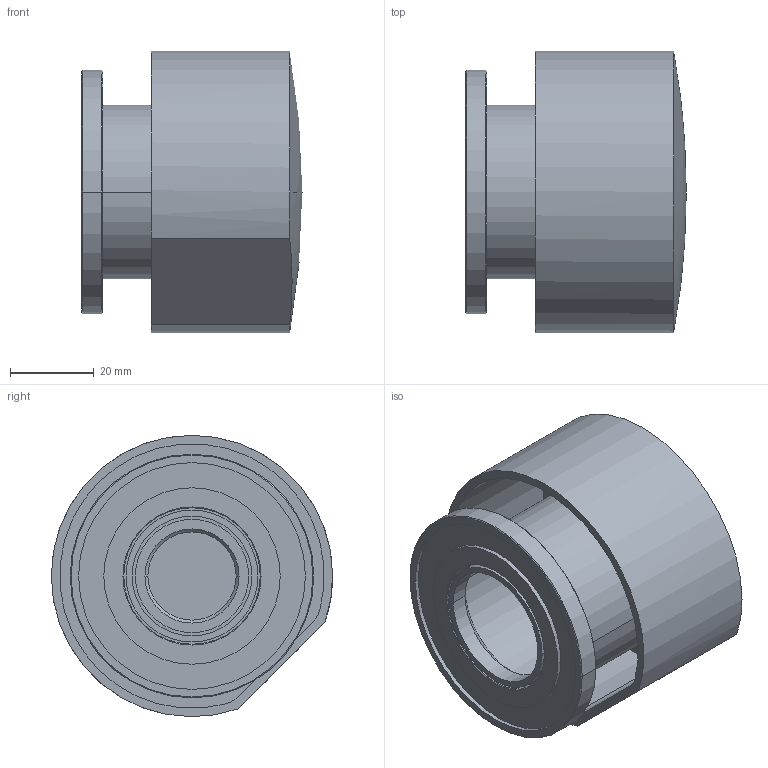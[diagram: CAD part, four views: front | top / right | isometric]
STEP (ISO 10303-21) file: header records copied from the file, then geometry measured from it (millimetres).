
FILE_DESCRIPTION((''),'2;1');
FILE_NAME('F3183_1_FILE_3D','2019-04-09T',('ivanv'),(''),'CREO PARAMETRIC BY PTC INC, 2016260','CREO PARAMETRIC BY PTC INC, 2016260','');
FILE_SCHEMA(('CONFIG_CONTROL_DESIGN'));
Length unit declared in the file: millimetre
Products named in the file (1): F3183_1_FILE_3D
Bounding box: 52.5 x 67 x 67 mm (x, y, z)
Volume: 40705 mm3; surface area: 36850.9 mm2
Topology: 2 solids, 2 shells, 74 faces, 152 edges, 91 vertices
Faces by surface type: cylinder 30, cone 22, plane 16, torus 4, sphere 2
Entity records: 1991 total; most frequent: DIRECTION 391, CARTESIAN_POINT 315, ORIENTED_EDGE 300, AXIS2_PLACEMENT_3D 167, EDGE_CURVE 150, CIRCLE 93, VERTEX_POINT 91, EDGE_LOOP 87
